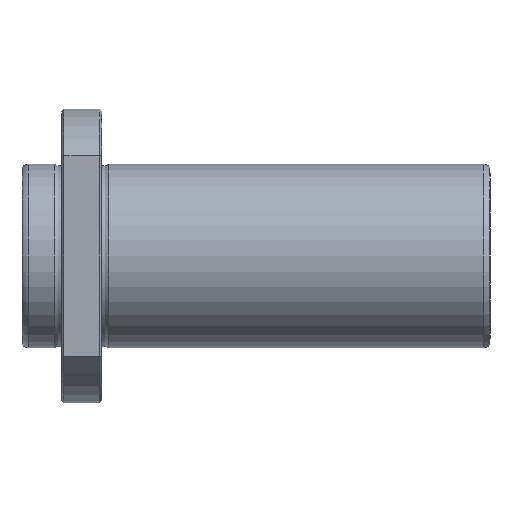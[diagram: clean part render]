
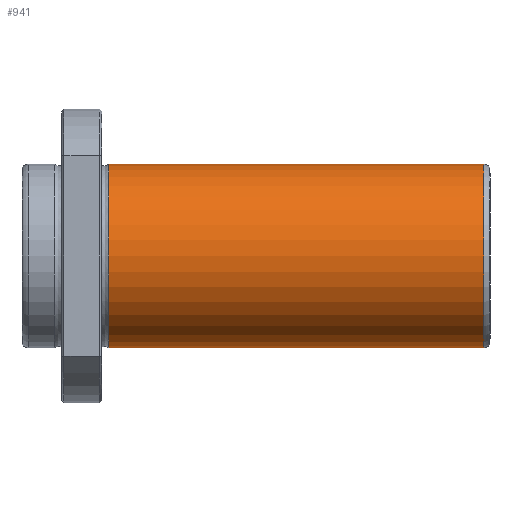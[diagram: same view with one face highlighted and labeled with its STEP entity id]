
A CAD part, front view. The second image highlights one B-rep face of the part: STEP entity #941.
In plain terms, the highlighted cylindrical face has radius 30 mm (diameter 60 mm), a full revolution.
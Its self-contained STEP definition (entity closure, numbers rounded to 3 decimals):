
#907=CARTESIAN_POINT('',(151.016,0.0,30.));
#908=VERTEX_POINT('',#907);
#909=CARTESIAN_POINT('',(151.016,0.0,0.0));
#910=DIRECTION('',(-1.0,0.0,0.0));
#911=DIRECTION('',(0.0,0.0,1.0));
#912=AXIS2_PLACEMENT_3D('',#909,#910,#911);
#913=CIRCLE('',#912,30.);
#914=EDGE_CURVE('',#908,#908,#913,.T.);
#922=CARTESIAN_POINT('',(89.708,0.0,0.0));
#923=DIRECTION('',(-1.0,0.0,0.0));
#924=DIRECTION('',(0.0,0.0,1.0));
#925=AXIS2_PLACEMENT_3D('',#922,#923,#924);
#926=CYLINDRICAL_SURFACE('',#925,30.);
#927=CARTESIAN_POINT('',(28.4,0.0,30.));
#928=VERTEX_POINT('',#927);
#929=CARTESIAN_POINT('',(28.4,0.0,0.0));
#930=DIRECTION('',(-1.0,0.0,0.0));
#931=DIRECTION('',(0.0,0.0,1.0));
#932=AXIS2_PLACEMENT_3D('',#929,#930,#931);
#933=CIRCLE('',#932,30.);
#934=EDGE_CURVE('',#928,#928,#933,.T.);
#935=ORIENTED_EDGE('',*,*,#934,.F.);
#936=EDGE_LOOP('',(#935));
#937=FACE_OUTER_BOUND('',#936,.T.);
#938=ORIENTED_EDGE('',*,*,#914,.T.);
#939=EDGE_LOOP('',(#938));
#940=FACE_BOUND('',#939,.T.);
#941=ADVANCED_FACE('',(#937,#940),#926,.T.);
